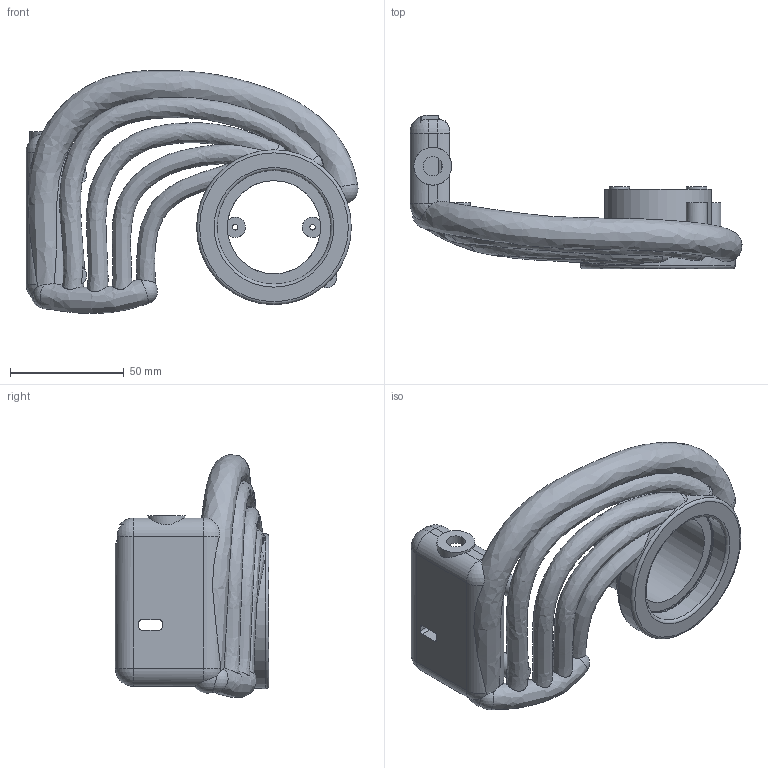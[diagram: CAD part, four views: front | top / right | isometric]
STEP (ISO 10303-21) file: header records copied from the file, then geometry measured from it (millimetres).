
FILE_DESCRIPTION(('Open CASCADE Model'),'2;1');
FILE_NAME('Open CASCADE Shape Model','2026-10-20T14:38:56',('Author'),( 'Open CASCADE'),'Open CASCADE STEP processor 7.8','Open CASCADE 7.8' ,'Unknown');
FILE_SCHEMA(('AUTOMOTIVE_DESIGN { 1 0 10303 214 1 1 1 1 }'));
Products named in the file (1): Open CASCADE STEP translator 7.8 1
Bounding box: 145.96 x 67.5 x 106.85 mm (x, y, z)
Volume: 134825.2 mm3; surface area: 47436.4 mm2
Topology: 1 solids, 1 shells, 134 faces, 401 edges, 264 vertices
Faces by surface type: plane 52, cylinder 47, sphere 20, torus 8, bspline 7
Full cylindrical faces by diameter (mm): 1.8 x4, 2.4 x2, 8.4 x1, 9 x2, 9.2 x4, 16.6 x1, 41 x1, 47 x1, 50 x2, 68 x1
Entity records: 40475 total; most frequent: CARTESIAN_POINT 33501, DIRECTION 1041, ORIENTED_EDGE 792, PCURVE 792, DEFINITIONAL_REPRESENTATION 792, B_SPLINE_CURVE_WITH_KNOTS 506, LINE 411, VECTOR 411
